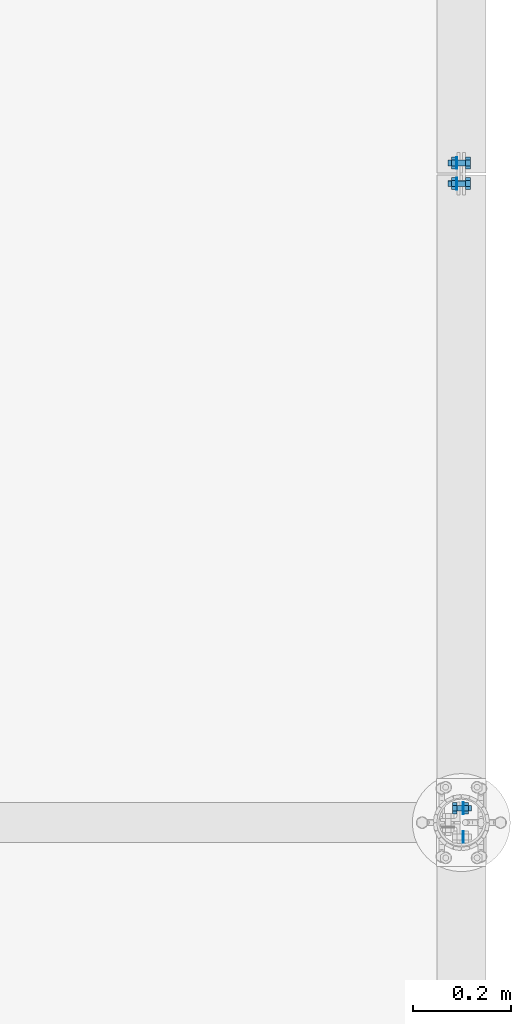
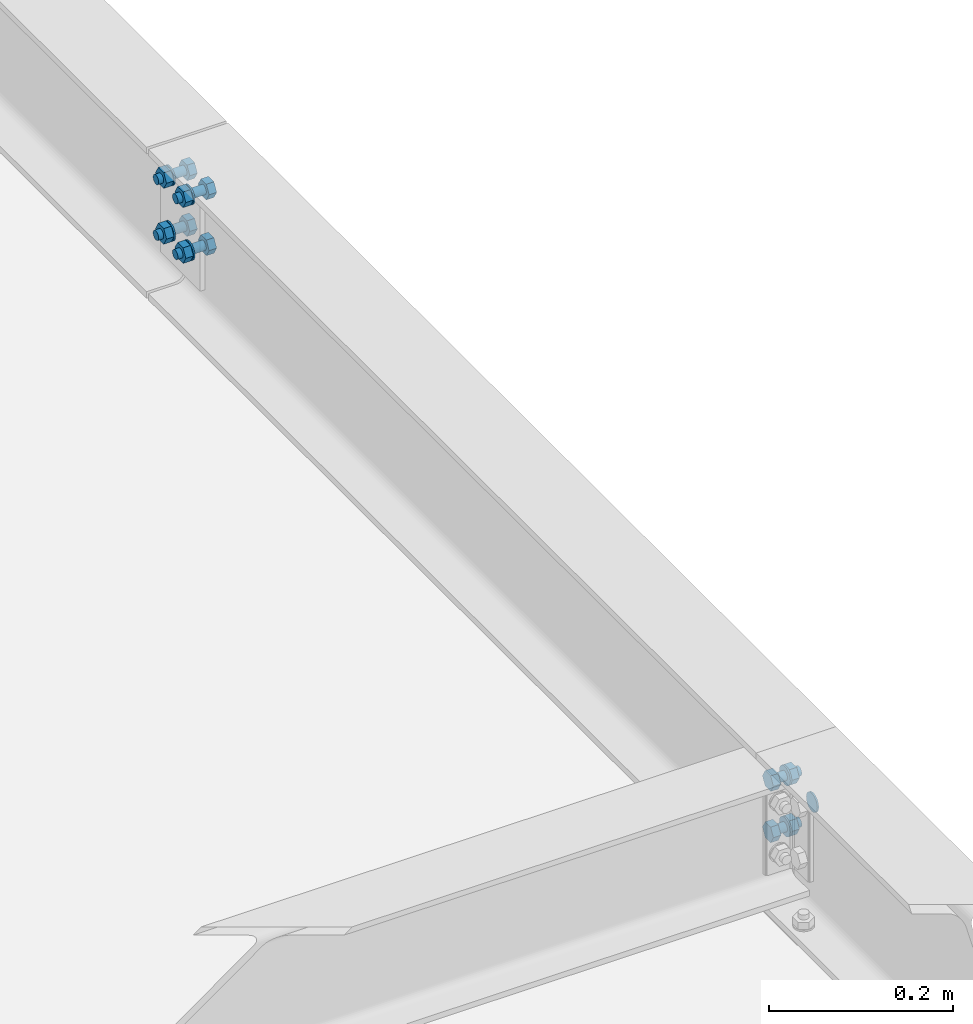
# One storey, part 31 of 84: 33 mechanical fasteners.
"""IFC4 building model written with IfcOpenShell, lengths in metres."""

from ifc_helpers import new_model, si_unit, frame, origin_with_axes, place, context, project, spatial, polyline, outline, extrude, type_object, element, save


model = new_model("IFC4")

# Units and contexts
model_context = context("Model", 3, precision=1e-05, world=origin_with_axes())
ifc_project = project(units=[si_unit("LENGTHUNIT", "METRE"), si_unit("AREAUNIT", "SQUARE_METRE"), si_unit("VOLUMEUNIT", "CUBIC_METRE"), si_unit("MASSUNIT", "GRAM", prefix="KILO"), si_unit("TIMEUNIT", "SECOND"), si_unit("PLANEANGLEUNIT", "RADIAN"), si_unit("SOLIDANGLEUNIT", "STERADIAN"), si_unit("THERMODYNAMICTEMPERATUREUNIT", "DEGREE_CELSIUS")], contexts=[model_context])

# Site, building, storey
placement_1 = place(None, origin_with_axes())
site = spatial("IfcSite", under=ifc_project, at=placement_1, Name="Italia", CompositionType="ELEMENT")
building = spatial("IfcBuilding", under=site, at=placement_1, Name="Tettoia", CompositionType="ELEMENT")
storey_placement = place(None, frame((0.0, 0.0, 4.199999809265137), z_axis=(0.0, 0.0, 1.0), x_axis=(1.0, 0.0, 0.0)))
storey = spatial("IfcBuildingStorey", under=building, at=storey_placement, Name="Storey 1", CompositionType="ELEMENT", Elevation=4.199999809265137)

# Mechanical fasteners
mechanical_fastener_type_1 = type_object("IfcMechanicalFastenerType", Name="Collegamento 0104_0103", PredefinedType="BOLT")
placement_2 = place(placement_1, origin_with_axes())
mechanical_fastener_1_placement = place(placement_2, origin_with_axes())
element("IfcMechanicalFastener", 1, at=mechanical_fastener_1_placement, inside=storey, type_object=mechanical_fastener_type_1, Name="Collegamento 0104_0103", NominalDiameter=0.024, context=model_context, shape_type="SweptSolid", body=[
    extrude(outline(polyline([(0.0, 0.0), (-0.000409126, -0.00310564), (-0.00160789, -0.00600004), (-0.00351477, -0.00848532), (-0.00600004, -0.0103922), (-0.00889444, -0.011591), (-0.0120001, -0.0120001), (-0.0151057, -0.011591), (-0.0180001, -0.0103922), (-0.0204854, -0.00848532), (-0.0223923, -0.00600004), (-0.023591, -0.00310564), (-0.0240002, 0.0), (-0.023591, 0.00310564), (-0.0223923, 0.00600004), (-0.0204854, 0.00848532), (-0.0180001, 0.0103922), (-0.0151057, 0.011591), (-0.0120001, 0.0120001), (-0.00889444, 0.011591), (-0.00600004, 0.0103922), (-0.00351477, 0.00848532), (-0.00160789, 0.00600004), (-0.000409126, 0.00310564), (0.0, 0.0)])), frame((11.2948, 4.6087, 4.334), z_axis=(-1.0, 0.0, 0.0), x_axis=(0.0, -1.0, 0.0)), (0.0, 0.0, 1.0), 0.00199986),
])
mechanical_fastener_type_2 = type_object("IfcMechanicalFastenerType", Name="Collegamento 0104_0103", PredefinedType="BOLT")
mechanical_fastener_2_placement = place(placement_2, origin_with_axes())
element("IfcMechanicalFastener", 2, at=mechanical_fastener_2_placement, inside=storey, type_object=mechanical_fastener_type_2, Name="Collegamento 0104_0103", NominalDiameter=0.0119996, context=model_context, shape_type="SweptSolid", body=[
    extrude(outline(polyline([(0.0, 0.0), (-0.0119996, 0.0), (-0.0179996, 0.0103922), (-0.0119996, 0.0207844), (0.0, 0.0207844), (0.00600004, 0.0103922), (0.0, 0.0)])), frame((11.2716, 4.6853, 4.25561), z_axis=(1.0, 0.0, 0.0), x_axis=(0.0, 1.0, 0.0)), (0.0, 0.0, 1.0), 0.00960064),
])
mechanical_fastener_type_3 = type_object("IfcMechanicalFastenerType", Name="Collegamento 0104_0103", PredefinedType="BOLT")
mechanical_fastener_3_placement = place(placement_2, origin_with_axes())
element("IfcMechanicalFastener", 3, at=mechanical_fastener_3_placement, inside=storey, type_object=mechanical_fastener_type_3, Name="Collegamento 0104_0103", NominalDiameter=0.012, context=model_context, shape_type="SweptSolid", body=[
    extrude(outline(polyline([(0.0, 0.0), (-0.000204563, -0.00155306), (-0.000803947, -0.00299978), (-0.00175762, -0.00424242), (-0.00300026, -0.00519609), (-0.00444698, -0.00579548), (-0.00600004, -0.00600004), (-0.0075531, -0.00579548), (-0.00899982, -0.00519609), (-0.0102425, -0.00424242), (-0.0111961, -0.00299978), (-0.0117955, -0.00155306), (-0.0120001, 0.0), (-0.0117955, 0.00155306), (-0.0111961, 0.00299978), (-0.0102425, 0.00424242), (-0.00899982, 0.00519609), (-0.0075531, 0.00579548), (-0.00600004, 0.00600004), (-0.00444698, 0.00579548), (-0.00300026, 0.00519609), (-0.00175762, 0.00424242), (-0.000803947, 0.00299978), (-0.000204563, 0.00155306), (0.0, 0.0)])), frame((11.2812, 4.6853, 4.266), z_axis=(1.0, 0.0, 0.0), x_axis=(0.0, 1.0, 0.0)), (0.0, 0.0, 1.0), 0.0295992),
])
mechanical_fastener_type_4 = type_object("IfcMechanicalFastenerType", Name="Collegamento 0104_0103", PredefinedType="BOLT")
mechanical_fastener_4_placement = place(placement_2, origin_with_axes())
element("IfcMechanicalFastener", 4, at=mechanical_fastener_4_placement, inside=storey, type_object=mechanical_fastener_type_4, Name="Collegamento 0104_0103", NominalDiameter=0.0119996, context=model_context, shape_type="SweptSolid", body=[
    extrude(outline(polyline([(0.0, 0.0), (-0.0119996, 0.0), (-0.0179996, 0.0103922), (-0.0119996, 0.0207844), (0.0, 0.0207844), (0.00600004, 0.0103922), (0.0, 0.0)])), frame((11.2948, 4.6853, 4.25561), z_axis=(1.0, 0.0, 0.0), x_axis=(0.0, 1.0, 0.0)), (0.0, 0.0, 1.0), 0.00960064),
])
mechanical_fastener_type_5 = type_object("IfcMechanicalFastenerType", Name="Collegamento 0104_0103", PredefinedType="BOLT")
mechanical_fastener_5_placement = place(placement_2, origin_with_axes())
element("IfcMechanicalFastener", 5, at=mechanical_fastener_5_placement, inside=storey, type_object=mechanical_fastener_type_5, Name="Collegamento 0104_0103", NominalDiameter=0.024, context=model_context, shape_type="SweptSolid", body=[
    extrude(outline(polyline([(0.0, 0.0), (-0.000409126, -0.00310564), (-0.00160789, -0.00600004), (-0.00351477, -0.00848532), (-0.00600004, -0.0103922), (-0.00889444, -0.011591), (-0.0120001, -0.0120001), (-0.0151057, -0.011591), (-0.0180001, -0.0103922), (-0.0204854, -0.00848532), (-0.0223923, -0.00600004), (-0.023591, -0.00310564), (-0.0240002, 0.0), (-0.023591, 0.00310564), (-0.0223923, 0.00600004), (-0.0204854, 0.00848532), (-0.0180001, 0.0103922), (-0.0151057, 0.011591), (-0.0120001, 0.0120001), (-0.00889444, 0.011591), (-0.00600004, 0.0103922), (-0.00351477, 0.00848532), (-0.00160789, 0.00600004), (-0.000409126, 0.00310564), (0.0, 0.0)])), frame((11.2928, 4.6913, 4.266), z_axis=(1.0, 0.0, 0.0), x_axis=(0.0, 1.0, 0.0)), (0.0, 0.0, 1.0), 0.00199986),
])
mechanical_fastener_type_6 = type_object("IfcMechanicalFastenerType", Name="Collegamento 0104_0103", PredefinedType="BOLT")
mechanical_fastener_6_placement = place(placement_2, origin_with_axes())
element("IfcMechanicalFastener", 6, at=mechanical_fastener_6_placement, inside=storey, type_object=mechanical_fastener_type_6, Name="Collegamento 0104_0103", NominalDiameter=0.0119996, context=model_context, shape_type="SweptSolid", body=[
    extrude(outline(polyline([(0.0, 0.0), (-0.0119996, 0.0), (-0.0179996, 0.0103922), (-0.0119996, 0.0207844), (0.0, 0.0207844), (0.00600004, 0.0103922), (0.0, 0.0)])), frame((11.2716, 4.6853, 4.32361), z_axis=(1.0, 0.0, 0.0), x_axis=(0.0, 1.0, 0.0)), (0.0, 0.0, 1.0), 0.00960064),
])
mechanical_fastener_type_7 = type_object("IfcMechanicalFastenerType", Name="Collegamento 0104_0103", PredefinedType="BOLT")
mechanical_fastener_7_placement = place(placement_2, origin_with_axes())
element("IfcMechanicalFastener", 7, at=mechanical_fastener_7_placement, inside=storey, type_object=mechanical_fastener_type_7, Name="Collegamento 0104_0103", NominalDiameter=0.012, context=model_context, shape_type="SweptSolid", body=[
    extrude(outline(polyline([(0.0, 0.0), (-0.000204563, -0.00155306), (-0.000803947, -0.00299978), (-0.00175762, -0.00424242), (-0.00300026, -0.00519609), (-0.00444698, -0.00579548), (-0.00600004, -0.00600004), (-0.0075531, -0.00579548), (-0.00899982, -0.00519609), (-0.0102425, -0.00424242), (-0.0111961, -0.00299978), (-0.0117955, -0.00155306), (-0.0120001, 0.0), (-0.0117955, 0.00155306), (-0.0111961, 0.00299978), (-0.0102425, 0.00424242), (-0.00899982, 0.00519609), (-0.0075531, 0.00579548), (-0.00600004, 0.00600004), (-0.00444698, 0.00579548), (-0.00300026, 0.00519609), (-0.00175762, 0.00424242), (-0.000803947, 0.00299978), (-0.000204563, 0.00155306), (0.0, 0.0)])), frame((11.2812, 4.6853, 4.334), z_axis=(1.0, 0.0, 0.0), x_axis=(0.0, 1.0, 0.0)), (0.0, 0.0, 1.0), 0.0295992),
])
mechanical_fastener_type_8 = type_object("IfcMechanicalFastenerType", Name="Collegamento 0104_0103", PredefinedType="BOLT")
mechanical_fastener_8_placement = place(placement_2, origin_with_axes())
element("IfcMechanicalFastener", 8, at=mechanical_fastener_8_placement, inside=storey, type_object=mechanical_fastener_type_8, Name="Collegamento 0104_0103", NominalDiameter=0.0119996, context=model_context, shape_type="SweptSolid", body=[
    extrude(outline(polyline([(0.0, 0.0), (-0.0119996, 0.0), (-0.0179996, 0.0103922), (-0.0119996, 0.0207844), (0.0, 0.0207844), (0.00600004, 0.0103922), (0.0, 0.0)])), frame((11.2948, 4.6853, 4.32361), z_axis=(1.0, 0.0, 0.0), x_axis=(0.0, 1.0, 0.0)), (0.0, 0.0, 1.0), 0.00960064),
])
mechanical_fastener_type_9 = type_object("IfcMechanicalFastenerType", Name="Collegamento 0104_0103", PredefinedType="BOLT")
mechanical_fastener_9_placement = place(placement_2, origin_with_axes())
element("IfcMechanicalFastener", 9, at=mechanical_fastener_9_placement, inside=storey, type_object=mechanical_fastener_type_9, Name="Collegamento 0104_0103", NominalDiameter=0.024, context=model_context, shape_type="SweptSolid", body=[
    extrude(outline(polyline([(0.0, 0.0), (-0.000409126, -0.00310564), (-0.00160789, -0.00600004), (-0.00351477, -0.00848532), (-0.00600004, -0.0103922), (-0.00889444, -0.011591), (-0.0120001, -0.0120001), (-0.0151057, -0.011591), (-0.0180001, -0.0103922), (-0.0204854, -0.00848532), (-0.0223923, -0.00600004), (-0.023591, -0.00310564), (-0.0240002, 0.0), (-0.023591, 0.00310564), (-0.0223923, 0.00600004), (-0.0204854, 0.00848532), (-0.0180001, 0.0103922), (-0.0151057, 0.011591), (-0.0120001, 0.0120001), (-0.00889444, 0.011591), (-0.00600004, 0.0103922), (-0.00351477, 0.00848532), (-0.00160789, 0.00600004), (-0.000409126, 0.00310564), (0.0, 0.0)])), frame((11.2928, 4.6913, 4.334), z_axis=(1.0, 0.0, 0.0), x_axis=(0.0, 1.0, 0.0)), (0.0, 0.0, 1.0), 0.00199986),
])
mechanical_fastener_type_10 = type_object("IfcMechanicalFastenerType", Name="Collegamento 0119_0104", PredefinedType="BOLT")
mechanical_fastener_10_placement = place(placement_2, origin_with_axes())
element("IfcMechanicalFastener", 10, at=mechanical_fastener_10_placement, inside=storey, type_object=mechanical_fastener_type_10, Name="Collegamento 0119_0104", NominalDiameter=0.0119997, context=model_context, shape_type="SweptSolid", body=[
    extrude(outline(polyline([(0.0, 0.0), (0.0120001, 0.0), (0.0179996, -0.0103922), (0.0120001, -0.0207849), (0.0, -0.0207849), (-0.00600004, -0.0103922), (0.0, 0.0)])), frame((11.2988, 5.947, 4.34739), z_axis=(1.0, 0.0, 0.0), x_axis=(0.0, 1.0, 0.0)), (0.0, 0.0, 1.0), 0.00960064),
])
mechanical_fastener_type_11 = type_object("IfcMechanicalFastenerType", Name="Collegamento 0119_0104", PredefinedType="BOLT")
mechanical_fastener_11_placement = place(placement_2, origin_with_axes())
element("IfcMechanicalFastener", 11, at=mechanical_fastener_11_placement, inside=storey, type_object=mechanical_fastener_type_11, Name="Collegamento 0119_0104", NominalDiameter=0.012, context=model_context, shape_type="SweptSolid", body=[
    extrude(outline(polyline([(0.0, 0.0), (-0.000204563, -0.00155306), (-0.000803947, -0.00299978), (-0.00175762, -0.00424242), (-0.00300026, -0.00519609), (-0.00444698, -0.00579548), (-0.00600004, -0.00600004), (-0.0075531, -0.00579548), (-0.00899982, -0.00519609), (-0.0102425, -0.00424242), (-0.0111961, -0.00299978), (-0.0117955, -0.00155306), (-0.0120001, 0.0), (-0.0117955, 0.00155306), (-0.0111961, 0.00299978), (-0.0102425, 0.00424242), (-0.00899982, 0.00519609), (-0.0075531, 0.00579548), (-0.00600004, 0.00600004), (-0.00444698, 0.00579548), (-0.00300026, 0.00519609), (-0.00175762, 0.00424242), (-0.000803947, 0.00299978), (-0.000204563, 0.00155306), (0.0, 0.0)])), frame((11.2632, 5.959, 4.337), z_axis=(1.0, 0.0, 0.0), x_axis=(0.0, 1.0, 0.0)), (0.0, 0.0, 1.0), 0.0355997),
])
mechanical_fastener_type_12 = type_object("IfcMechanicalFastenerType", Name="Collegamento 0119_0104", PredefinedType="BOLT")
mechanical_fastener_12_placement = place(placement_2, origin_with_axes())
element("IfcMechanicalFastener", 12, at=mechanical_fastener_12_placement, inside=storey, type_object=mechanical_fastener_type_12, Name="Collegamento 0119_0104", NominalDiameter=0.0119997, context=model_context, shape_type="SweptSolid", body=[
    extrude(outline(polyline([(0.0, 0.0), (0.0120001, 0.0), (0.0179996, -0.0103922), (0.0120001, -0.0207849), (0.0, -0.0207849), (-0.00600004, -0.0103922), (0.0, 0.0)])), frame((11.2696, 5.947, 4.34739), z_axis=(1.0, 0.0, 0.0), x_axis=(0.0, 1.0, 0.0)), (0.0, 0.0, 1.0), 0.00959969),
])
mechanical_fastener_type_13 = type_object("IfcMechanicalFastenerType", Name="Collegamento 0119_0104", PredefinedType="BOLT")
mechanical_fastener_13_placement = place(placement_2, origin_with_axes())
element("IfcMechanicalFastener", 13, at=mechanical_fastener_13_placement, inside=storey, type_object=mechanical_fastener_type_13, Name="Collegamento 0119_0104", NominalDiameter=0.024, context=model_context, shape_type="SweptSolid", body=[
    extrude(outline(polyline([(0.0, 0.0), (-0.000409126, -0.00310564), (-0.00160789, -0.00600004), (-0.00351477, -0.00848532), (-0.00600004, -0.0103922), (-0.00889444, -0.011591), (-0.0120001, -0.0120001), (-0.0151057, -0.011591), (-0.0180001, -0.0103922), (-0.0204854, -0.00848532), (-0.0223923, -0.00600004), (-0.023591, -0.00310564), (-0.0240002, 0.0), (-0.023591, 0.00310564), (-0.0223923, 0.00600004), (-0.0204854, 0.00848532), (-0.0180001, 0.0103922), (-0.0151057, 0.011591), (-0.0120001, 0.0120001), (-0.00889444, 0.011591), (-0.00600004, 0.0103922), (-0.00351477, 0.00848532), (-0.00160789, 0.00600004), (-0.000409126, 0.00310564), (0.0, 0.0)])), frame((11.2792, 5.965, 4.337), z_axis=(1.0, 0.0, 0.0), x_axis=(0.0, 1.0, 0.0)), (0.0, 0.0, 1.0), 0.00200081),
])
mechanical_fastener_type_14 = type_object("IfcMechanicalFastenerType", Name="Collegamento 0119_0104", PredefinedType="BOLT")
mechanical_fastener_14_placement = place(placement_2, origin_with_axes())
element("IfcMechanicalFastener", 14, at=mechanical_fastener_14_placement, inside=storey, type_object=mechanical_fastener_type_14, Name="Collegamento 0119_0104", NominalDiameter=0.0119997, context=model_context, shape_type="SweptSolid", body=[
    extrude(outline(polyline([(0.0, 0.0), (0.0120001, 0.0), (0.0179996, -0.0103927), (0.0120001, -0.0207849), (0.0, -0.0207849), (-0.00600004, -0.0103927), (0.0, 0.0)])), frame((11.2988, 5.947, 4.27339), z_axis=(1.0, 0.0, 0.0), x_axis=(0.0, 1.0, 0.0)), (0.0, 0.0, 1.0), 0.00960064),
])
mechanical_fastener_type_15 = type_object("IfcMechanicalFastenerType", Name="Collegamento 0119_0104", PredefinedType="BOLT")
mechanical_fastener_15_placement = place(placement_2, origin_with_axes())
element("IfcMechanicalFastener", 15, at=mechanical_fastener_15_placement, inside=storey, type_object=mechanical_fastener_type_15, Name="Collegamento 0119_0104", NominalDiameter=0.012, context=model_context, shape_type="SweptSolid", body=[
    extrude(outline(polyline([(0.0, 0.0), (-0.000204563, -0.00155306), (-0.000803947, -0.00299978), (-0.00175762, -0.00424242), (-0.00300026, -0.00519609), (-0.00444698, -0.00579548), (-0.00600004, -0.00600004), (-0.0075531, -0.00579548), (-0.00899982, -0.00519609), (-0.0102425, -0.00424242), (-0.0111961, -0.00299978), (-0.0117955, -0.00155306), (-0.0120001, 0.0), (-0.0117955, 0.00155306), (-0.0111961, 0.00299978), (-0.0102425, 0.00424242), (-0.00899982, 0.00519609), (-0.0075531, 0.00579548), (-0.00600004, 0.00600004), (-0.00444698, 0.00579548), (-0.00300026, 0.00519609), (-0.00175762, 0.00424242), (-0.000803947, 0.00299978), (-0.000204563, 0.00155306), (0.0, 0.0)])), frame((11.2632, 5.959, 4.263), z_axis=(1.0, 0.0, 0.0), x_axis=(0.0, 1.0, 0.0)), (0.0, 0.0, 1.0), 0.0355997),
])
mechanical_fastener_type_16 = type_object("IfcMechanicalFastenerType", Name="Collegamento 0119_0104", PredefinedType="BOLT")
mechanical_fastener_16_placement = place(placement_2, origin_with_axes())
element("IfcMechanicalFastener", 16, at=mechanical_fastener_16_placement, inside=storey, type_object=mechanical_fastener_type_16, Name="Collegamento 0119_0104", NominalDiameter=0.0119997, context=model_context, shape_type="SweptSolid", body=[
    extrude(outline(polyline([(0.0, 0.0), (0.0120001, 0.0), (0.0179996, -0.0103927), (0.0120001, -0.0207849), (0.0, -0.0207849), (-0.00600004, -0.0103927), (0.0, 0.0)])), frame((11.2696, 5.947, 4.27339), z_axis=(1.0, 0.0, 0.0), x_axis=(0.0, 1.0, 0.0)), (0.0, 0.0, 1.0), 0.00959969),
])
mechanical_fastener_type_17 = type_object("IfcMechanicalFastenerType", Name="Collegamento 0119_0104", PredefinedType="BOLT")
mechanical_fastener_17_placement = place(placement_2, origin_with_axes())
element("IfcMechanicalFastener", 17, at=mechanical_fastener_17_placement, inside=storey, type_object=mechanical_fastener_type_17, Name="Collegamento 0119_0104", NominalDiameter=0.024, context=model_context, shape_type="SweptSolid", body=[
    extrude(outline(polyline([(0.0, 0.0), (-0.000409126, -0.00310564), (-0.00160789, -0.00600004), (-0.00351477, -0.00848532), (-0.00600004, -0.0103922), (-0.00889444, -0.011591), (-0.0120001, -0.0120001), (-0.0151057, -0.011591), (-0.0180001, -0.0103922), (-0.0204854, -0.00848532), (-0.0223923, -0.00600004), (-0.023591, -0.00310564), (-0.0240002, 0.0), (-0.023591, 0.00310564), (-0.0223923, 0.00600004), (-0.0204854, 0.00848532), (-0.0180001, 0.0103922), (-0.0151057, 0.011591), (-0.0120001, 0.0120001), (-0.00889444, 0.011591), (-0.00600004, 0.0103922), (-0.00351477, 0.00848532), (-0.00160789, 0.00600004), (-0.000409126, 0.00310564), (0.0, 0.0)])), frame((11.2792, 5.965, 4.263), z_axis=(1.0, 0.0, 0.0), x_axis=(0.0, 1.0, 0.0)), (0.0, 0.0, 1.0), 0.00200081),
])
mechanical_fastener_type_18 = type_object("IfcMechanicalFastenerType", Name="Collegamento 0119_0104", PredefinedType="BOLT")
mechanical_fastener_18_placement = place(placement_2, origin_with_axes())
element("IfcMechanicalFastener", 18, at=mechanical_fastener_18_placement, inside=storey, type_object=mechanical_fastener_type_18, Name="Collegamento 0119_0104", NominalDiameter=0.0119997, context=model_context, shape_type="SweptSolid", body=[
    extrude(outline(polyline([(0.0, 0.0), (0.0120001, 0.0), (0.0179996, -0.0103922), (0.0120001, -0.0207849), (0.0, -0.0207849), (-0.00600004, -0.0103922), (0.0, 0.0)])), frame((11.2988, 5.947, 4.34739), z_axis=(1.0, 0.0, 0.0), x_axis=(0.0, 1.0, 0.0)), (0.0, 0.0, 1.0), 0.00960064),
])
mechanical_fastener_type_19 = type_object("IfcMechanicalFastenerType", Name="Collegamento 0119_0104", PredefinedType="BOLT")
mechanical_fastener_19_placement = place(placement_2, origin_with_axes())
element("IfcMechanicalFastener", 19, at=mechanical_fastener_19_placement, inside=storey, type_object=mechanical_fastener_type_19, Name="Collegamento 0119_0104", NominalDiameter=0.012, context=model_context, shape_type="SweptSolid", body=[
    extrude(outline(polyline([(0.0, 0.0), (-0.000204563, -0.00155306), (-0.000803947, -0.00299978), (-0.00175762, -0.00424242), (-0.00300026, -0.00519609), (-0.00444698, -0.00579548), (-0.00600004, -0.00600004), (-0.0075531, -0.00579548), (-0.00899982, -0.00519609), (-0.0102425, -0.00424242), (-0.0111961, -0.00299978), (-0.0117955, -0.00155306), (-0.0120001, 0.0), (-0.0117955, 0.00155306), (-0.0111961, 0.00299978), (-0.0102425, 0.00424242), (-0.00899982, 0.00519609), (-0.0075531, 0.00579548), (-0.00600004, 0.00600004), (-0.00444698, 0.00579548), (-0.00300026, 0.00519609), (-0.00175762, 0.00424242), (-0.000803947, 0.00299978), (-0.000204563, 0.00155306), (0.0, 0.0)])), frame((11.2632, 5.959, 4.337), z_axis=(1.0, 0.0, 0.0), x_axis=(0.0, 1.0, 0.0)), (0.0, 0.0, 1.0), 0.0355997),
])
mechanical_fastener_type_20 = type_object("IfcMechanicalFastenerType", Name="Collegamento 0119_0104", PredefinedType="BOLT")
mechanical_fastener_20_placement = place(placement_2, origin_with_axes())
element("IfcMechanicalFastener", 20, at=mechanical_fastener_20_placement, inside=storey, type_object=mechanical_fastener_type_20, Name="Collegamento 0119_0104", NominalDiameter=0.0119997, context=model_context, shape_type="SweptSolid", body=[
    extrude(outline(polyline([(0.0, 0.0), (0.0120001, 0.0), (0.0179996, -0.0103922), (0.0120001, -0.0207849), (0.0, -0.0207849), (-0.00600004, -0.0103922), (0.0, 0.0)])), frame((11.2696, 5.947, 4.34739), z_axis=(1.0, 0.0, 0.0), x_axis=(0.0, 1.0, 0.0)), (0.0, 0.0, 1.0), 0.00959969),
])
mechanical_fastener_type_21 = type_object("IfcMechanicalFastenerType", Name="Collegamento 0119_0104", PredefinedType="BOLT")
mechanical_fastener_21_placement = place(placement_2, origin_with_axes())
element("IfcMechanicalFastener", 21, at=mechanical_fastener_21_placement, inside=storey, type_object=mechanical_fastener_type_21, Name="Collegamento 0119_0104", NominalDiameter=0.024, context=model_context, shape_type="SweptSolid", body=[
    extrude(outline(polyline([(0.0, 0.0), (-0.000409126, -0.00310564), (-0.00160789, -0.00600004), (-0.00351477, -0.00848532), (-0.00600004, -0.0103922), (-0.00889444, -0.011591), (-0.0120001, -0.0120001), (-0.0151057, -0.011591), (-0.0180001, -0.0103922), (-0.0204854, -0.00848532), (-0.0223923, -0.00600004), (-0.023591, -0.00310564), (-0.0240002, 0.0), (-0.023591, 0.00310564), (-0.0223923, 0.00600004), (-0.0204854, 0.00848532), (-0.0180001, 0.0103922), (-0.0151057, 0.011591), (-0.0120001, 0.0120001), (-0.00889444, 0.011591), (-0.00600004, 0.0103922), (-0.00351477, 0.00848532), (-0.00160789, 0.00600004), (-0.000409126, 0.00310564), (0.0, 0.0)])), frame((11.2792, 5.965, 4.337), z_axis=(1.0, 0.0, 0.0), x_axis=(0.0, 1.0, 0.0)), (0.0, 0.0, 1.0), 0.00200081),
])
mechanical_fastener_type_22 = type_object("IfcMechanicalFastenerType", Name="Collegamento 0119_0104", PredefinedType="BOLT")
mechanical_fastener_22_placement = place(placement_2, origin_with_axes())
element("IfcMechanicalFastener", 22, at=mechanical_fastener_22_placement, inside=storey, type_object=mechanical_fastener_type_22, Name="Collegamento 0119_0104", NominalDiameter=0.0119997, context=model_context, shape_type="SweptSolid", body=[
    extrude(outline(polyline([(0.0, 0.0), (0.0120001, 0.0), (0.0179996, -0.0103927), (0.0120001, -0.0207849), (0.0, -0.0207849), (-0.00600004, -0.0103927), (0.0, 0.0)])), frame((11.2988, 5.947, 4.27339), z_axis=(1.0, 0.0, 0.0), x_axis=(0.0, 1.0, 0.0)), (0.0, 0.0, 1.0), 0.00960064),
])
mechanical_fastener_type_23 = type_object("IfcMechanicalFastenerType", Name="Collegamento 0119_0104", PredefinedType="BOLT")
mechanical_fastener_23_placement = place(placement_2, origin_with_axes())
element("IfcMechanicalFastener", 23, at=mechanical_fastener_23_placement, inside=storey, type_object=mechanical_fastener_type_23, Name="Collegamento 0119_0104", NominalDiameter=0.012, context=model_context, shape_type="SweptSolid", body=[
    extrude(outline(polyline([(0.0, 0.0), (-0.000204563, -0.00155306), (-0.000803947, -0.00299978), (-0.00175762, -0.00424242), (-0.00300026, -0.00519609), (-0.00444698, -0.00579548), (-0.00600004, -0.00600004), (-0.0075531, -0.00579548), (-0.00899982, -0.00519609), (-0.0102425, -0.00424242), (-0.0111961, -0.00299978), (-0.0117955, -0.00155306), (-0.0120001, 0.0), (-0.0117955, 0.00155306), (-0.0111961, 0.00299978), (-0.0102425, 0.00424242), (-0.00899982, 0.00519609), (-0.0075531, 0.00579548), (-0.00600004, 0.00600004), (-0.00444698, 0.00579548), (-0.00300026, 0.00519609), (-0.00175762, 0.00424242), (-0.000803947, 0.00299978), (-0.000204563, 0.00155306), (0.0, 0.0)])), frame((11.2632, 5.959, 4.263), z_axis=(1.0, 0.0, 0.0), x_axis=(0.0, 1.0, 0.0)), (0.0, 0.0, 1.0), 0.0355997),
])
mechanical_fastener_type_24 = type_object("IfcMechanicalFastenerType", Name="Collegamento 0119_0104", PredefinedType="BOLT")
mechanical_fastener_24_placement = place(placement_2, origin_with_axes())
element("IfcMechanicalFastener", 24, at=mechanical_fastener_24_placement, inside=storey, type_object=mechanical_fastener_type_24, Name="Collegamento 0119_0104", NominalDiameter=0.0119997, context=model_context, shape_type="SweptSolid", body=[
    extrude(outline(polyline([(0.0, 0.0), (0.0120001, 0.0), (0.0179996, -0.0103927), (0.0120001, -0.0207849), (0.0, -0.0207849), (-0.00600004, -0.0103927), (0.0, 0.0)])), frame((11.2696, 5.947, 4.27339), z_axis=(1.0, 0.0, 0.0), x_axis=(0.0, 1.0, 0.0)), (0.0, 0.0, 1.0), 0.00959969),
])
mechanical_fastener_type_25 = type_object("IfcMechanicalFastenerType", Name="Collegamento 0119_0104", PredefinedType="BOLT")
mechanical_fastener_25_placement = place(placement_2, origin_with_axes())
element("IfcMechanicalFastener", 25, at=mechanical_fastener_25_placement, inside=storey, type_object=mechanical_fastener_type_25, Name="Collegamento 0119_0104", NominalDiameter=0.024, context=model_context, shape_type="SweptSolid", body=[
    extrude(outline(polyline([(0.0, 0.0), (-0.000409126, -0.00310564), (-0.00160789, -0.00600004), (-0.00351477, -0.00848532), (-0.00600004, -0.0103922), (-0.00889444, -0.011591), (-0.0120001, -0.0120001), (-0.0151057, -0.011591), (-0.0180001, -0.0103922), (-0.0204854, -0.00848532), (-0.0223923, -0.00600004), (-0.023591, -0.00310564), (-0.0240002, 0.0), (-0.023591, 0.00310564), (-0.0223923, 0.00600004), (-0.0204854, 0.00848532), (-0.0180001, 0.0103922), (-0.0151057, 0.011591), (-0.0120001, 0.0120001), (-0.00889444, 0.011591), (-0.00600004, 0.0103922), (-0.00351477, 0.00848532), (-0.00160789, 0.00600004), (-0.000409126, 0.00310564), (0.0, 0.0)])), frame((11.2792, 5.965, 4.263), z_axis=(1.0, 0.0, 0.0), x_axis=(0.0, 1.0, 0.0)), (0.0, 0.0, 1.0), 0.00200081),
])
mechanical_fastener_type_26 = type_object("IfcMechanicalFastenerType", Name="Collegamento 0119_0104", PredefinedType="BOLT")
mechanical_fastener_26_placement = place(placement_2, origin_with_axes())
element("IfcMechanicalFastener", 26, at=mechanical_fastener_26_placement, inside=storey, type_object=mechanical_fastener_type_26, Name="Collegamento 0119_0104", NominalDiameter=0.0119999, context=model_context, shape_type="SweptSolid", body=[
    extrude(outline(polyline([(0.0, 0.0), (0.0120001, 0.0), (0.0180001, -0.0103922), (0.0120001, -0.0207849), (0.0, -0.0207849), (-0.00600004, -0.0103922), (0.0, 0.0)])), frame((11.2988, 5.989, 4.34739), z_axis=(1.0, 0.0, 0.0), x_axis=(0.0, 1.0, 0.0)), (0.0, 0.0, 1.0), 0.00960064),
])
mechanical_fastener_type_27 = type_object("IfcMechanicalFastenerType", Name="Collegamento 0119_0104", PredefinedType="BOLT")
mechanical_fastener_27_placement = place(placement_2, origin_with_axes())
element("IfcMechanicalFastener", 27, at=mechanical_fastener_27_placement, inside=storey, type_object=mechanical_fastener_type_27, Name="Collegamento 0119_0104", NominalDiameter=0.012, context=model_context, shape_type="SweptSolid", body=[
    extrude(outline(polyline([(0.0, 0.0), (-0.000204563, -0.00155306), (-0.000803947, -0.00299978), (-0.00175762, -0.00424242), (-0.00300026, -0.00519609), (-0.00444698, -0.00579548), (-0.00600004, -0.00600004), (-0.0075531, -0.00579548), (-0.00899982, -0.00519609), (-0.0102425, -0.00424242), (-0.0111961, -0.00299978), (-0.0117955, -0.00155306), (-0.0120001, 0.0), (-0.0117955, 0.00155306), (-0.0111961, 0.00299978), (-0.0102425, 0.00424242), (-0.00899982, 0.00519609), (-0.0075531, 0.00579548), (-0.00600004, 0.00600004), (-0.00444698, 0.00579548), (-0.00300026, 0.00519609), (-0.00175762, 0.00424242), (-0.000803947, 0.00299978), (-0.000204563, 0.00155306), (0.0, 0.0)])), frame((11.2632, 6.001, 4.337), z_axis=(1.0, 0.0, 0.0), x_axis=(0.0, 1.0, 0.0)), (0.0, 0.0, 1.0), 0.0355997),
])
mechanical_fastener_type_28 = type_object("IfcMechanicalFastenerType", Name="Collegamento 0119_0104", PredefinedType="BOLT")
mechanical_fastener_28_placement = place(placement_2, origin_with_axes())
element("IfcMechanicalFastener", 28, at=mechanical_fastener_28_placement, inside=storey, type_object=mechanical_fastener_type_28, Name="Collegamento 0119_0104", NominalDiameter=0.0119999, context=model_context, shape_type="SweptSolid", body=[
    extrude(outline(polyline([(0.0, 0.0), (0.0120001, 0.0), (0.0180001, -0.0103922), (0.0120001, -0.0207849), (0.0, -0.0207849), (-0.00600004, -0.0103922), (0.0, 0.0)])), frame((11.2696, 5.989, 4.34739), z_axis=(1.0, 0.0, 0.0), x_axis=(0.0, 1.0, 0.0)), (0.0, 0.0, 1.0), 0.00959969),
])
mechanical_fastener_type_29 = type_object("IfcMechanicalFastenerType", Name="Collegamento 0119_0104", PredefinedType="BOLT")
mechanical_fastener_29_placement = place(placement_2, origin_with_axes())
element("IfcMechanicalFastener", 29, at=mechanical_fastener_29_placement, inside=storey, type_object=mechanical_fastener_type_29, Name="Collegamento 0119_0104", NominalDiameter=0.024, context=model_context, shape_type="SweptSolid", body=[
    extrude(outline(polyline([(0.0, 0.0), (-0.000409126, -0.00310564), (-0.00160789, -0.00600004), (-0.00351477, -0.00848532), (-0.00600004, -0.0103922), (-0.00889444, -0.011591), (-0.0120001, -0.0120001), (-0.0151057, -0.011591), (-0.0180001, -0.0103922), (-0.0204854, -0.00848532), (-0.0223923, -0.00600004), (-0.023591, -0.00310564), (-0.0240002, 0.0), (-0.023591, 0.00310564), (-0.0223923, 0.00600004), (-0.0204854, 0.00848532), (-0.0180001, 0.0103922), (-0.0151057, 0.011591), (-0.0120001, 0.0120001), (-0.00889444, 0.011591), (-0.00600004, 0.0103922), (-0.00351477, 0.00848532), (-0.00160789, 0.00600004), (-0.000409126, 0.00310564), (0.0, 0.0)])), frame((11.2792, 6.007, 4.337), z_axis=(1.0, 0.0, 0.0), x_axis=(0.0, 1.0, 0.0)), (0.0, 0.0, 1.0), 0.00200081),
])
mechanical_fastener_type_30 = type_object("IfcMechanicalFastenerType", Name="Collegamento 0119_0104", PredefinedType="BOLT")
mechanical_fastener_30_placement = place(placement_2, origin_with_axes())
element("IfcMechanicalFastener", 30, at=mechanical_fastener_30_placement, inside=storey, type_object=mechanical_fastener_type_30, Name="Collegamento 0119_0104", NominalDiameter=0.0119999, context=model_context, shape_type="SweptSolid", body=[
    extrude(outline(polyline([(0.0, 0.0), (0.0120001, 0.0), (0.0180001, -0.0103927), (0.0120001, -0.0207849), (0.0, -0.0207849), (-0.00600004, -0.0103927), (0.0, 0.0)])), frame((11.2988, 5.989, 4.27339), z_axis=(1.0, 0.0, 0.0), x_axis=(0.0, 1.0, 0.0)), (0.0, 0.0, 1.0), 0.00960064),
])
mechanical_fastener_type_31 = type_object("IfcMechanicalFastenerType", Name="Collegamento 0119_0104", PredefinedType="BOLT")
mechanical_fastener_31_placement = place(placement_2, origin_with_axes())
element("IfcMechanicalFastener", 31, at=mechanical_fastener_31_placement, inside=storey, type_object=mechanical_fastener_type_31, Name="Collegamento 0119_0104", NominalDiameter=0.012, context=model_context, shape_type="SweptSolid", body=[
    extrude(outline(polyline([(0.0, 0.0), (-0.000204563, -0.00155306), (-0.000803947, -0.00299978), (-0.00175762, -0.00424242), (-0.00300026, -0.00519609), (-0.00444698, -0.00579548), (-0.00600004, -0.00600004), (-0.0075531, -0.00579548), (-0.00899982, -0.00519609), (-0.0102425, -0.00424242), (-0.0111961, -0.00299978), (-0.0117955, -0.00155306), (-0.0120001, 0.0), (-0.0117955, 0.00155306), (-0.0111961, 0.00299978), (-0.0102425, 0.00424242), (-0.00899982, 0.00519609), (-0.0075531, 0.00579548), (-0.00600004, 0.00600004), (-0.00444698, 0.00579548), (-0.00300026, 0.00519609), (-0.00175762, 0.00424242), (-0.000803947, 0.00299978), (-0.000204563, 0.00155306), (0.0, 0.0)])), frame((11.2632, 6.001, 4.263), z_axis=(1.0, 0.0, 0.0), x_axis=(0.0, 1.0, 0.0)), (0.0, 0.0, 1.0), 0.0355997),
])
mechanical_fastener_type_32 = type_object("IfcMechanicalFastenerType", Name="Collegamento 0119_0104", PredefinedType="BOLT")
mechanical_fastener_32_placement = place(placement_2, origin_with_axes())
element("IfcMechanicalFastener", 32, at=mechanical_fastener_32_placement, inside=storey, type_object=mechanical_fastener_type_32, Name="Collegamento 0119_0104", NominalDiameter=0.0119999, context=model_context, shape_type="SweptSolid", body=[
    extrude(outline(polyline([(0.0, 0.0), (0.0120001, 0.0), (0.0180001, -0.0103927), (0.0120001, -0.0207849), (0.0, -0.0207849), (-0.00600004, -0.0103927), (0.0, 0.0)])), frame((11.2696, 5.989, 4.27339), z_axis=(1.0, 0.0, 0.0), x_axis=(0.0, 1.0, 0.0)), (0.0, 0.0, 1.0), 0.00959969),
])
mechanical_fastener_type_33 = type_object("IfcMechanicalFastenerType", Name="Collegamento 0119_0104", PredefinedType="BOLT")
mechanical_fastener_33_placement = place(placement_2, origin_with_axes())
element("IfcMechanicalFastener", 33, at=mechanical_fastener_33_placement, inside=storey, type_object=mechanical_fastener_type_33, Name="Collegamento 0119_0104", NominalDiameter=0.024, context=model_context, shape_type="SweptSolid", body=[
    extrude(outline(polyline([(0.0, 0.0), (-0.000409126, -0.00310564), (-0.00160789, -0.00600004), (-0.00351477, -0.00848532), (-0.00600004, -0.0103922), (-0.00889444, -0.011591), (-0.0120001, -0.0120001), (-0.0151057, -0.011591), (-0.0180001, -0.0103922), (-0.0204854, -0.00848532), (-0.0223923, -0.00600004), (-0.023591, -0.00310564), (-0.0240002, 0.0), (-0.023591, 0.00310564), (-0.0223923, 0.00600004), (-0.0204854, 0.00848532), (-0.0180001, 0.0103922), (-0.0151057, 0.011591), (-0.0120001, 0.0120001), (-0.00889444, 0.011591), (-0.00600004, 0.0103922), (-0.00351477, 0.00848532), (-0.00160789, 0.00600004), (-0.000409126, 0.00310564), (0.0, 0.0)])), frame((11.2792, 6.007, 4.263), z_axis=(1.0, 0.0, 0.0), x_axis=(0.0, 1.0, 0.0)), (0.0, 0.0, 1.0), 0.00200081),
])

save(model, "model.ifc")
